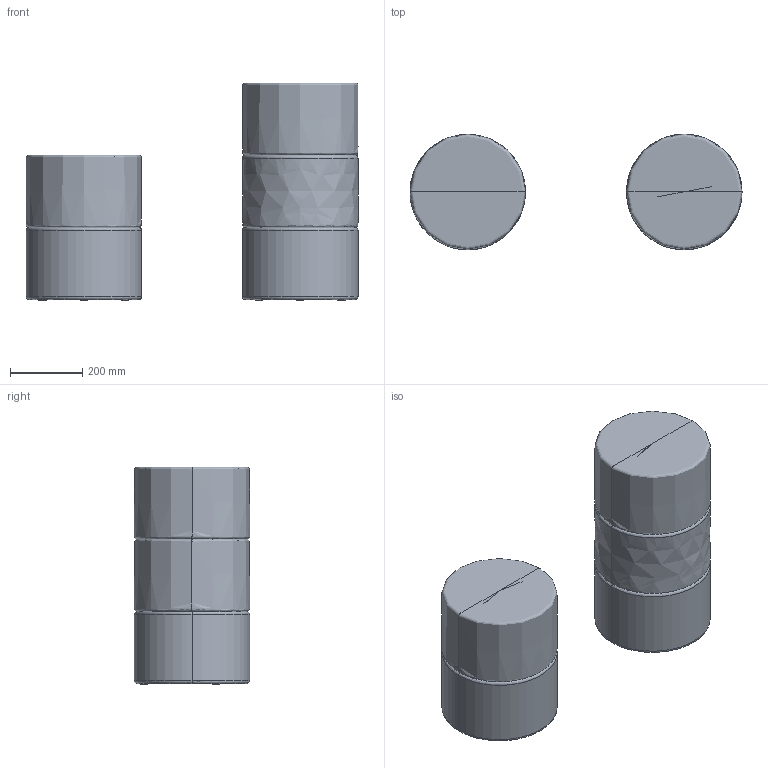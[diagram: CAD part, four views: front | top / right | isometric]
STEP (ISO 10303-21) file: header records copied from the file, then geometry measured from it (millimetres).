
FILE_DESCRIPTION(/* description */ (''),/* implementation_level */ '2;1');
FILE_NAME(/* name */ 'Pulpo_IMI_studioSebastianHerkner',/* time_stamp */ '2021-04-27T11:35:36+02:00',/* author */ (''),/* organization */ (''),/* preprocessor_version */ 'ST-DEVELOPER v16.5',/* originating_system */ '',/* authorisation */ '');
FILE_SCHEMA (('AUTOMOTIVE_DESIGN'));
Length unit declared in the file: millimetre
Products named in the file (1): Document
Bounding box: 920 x 320 x 604 mm (x, y, z)
Volume: 5613121 mm3; surface area: 2700571.3 mm2
Topology: 11 solids, 11 shells, 104 faces, 196 edges, 104 vertices
Faces by surface type: bspline 88, plane 16
Entity records: 5115 total; most frequent: CARTESIAN_POINT 4014, ORIENTED_EDGE 376, EDGE_CURVE 188, ADVANCED_FACE 104, FACE_OUTER_BOUND 104, EDGE_LOOP 104, VERTEX_POINT 104, DIRECTION 20
